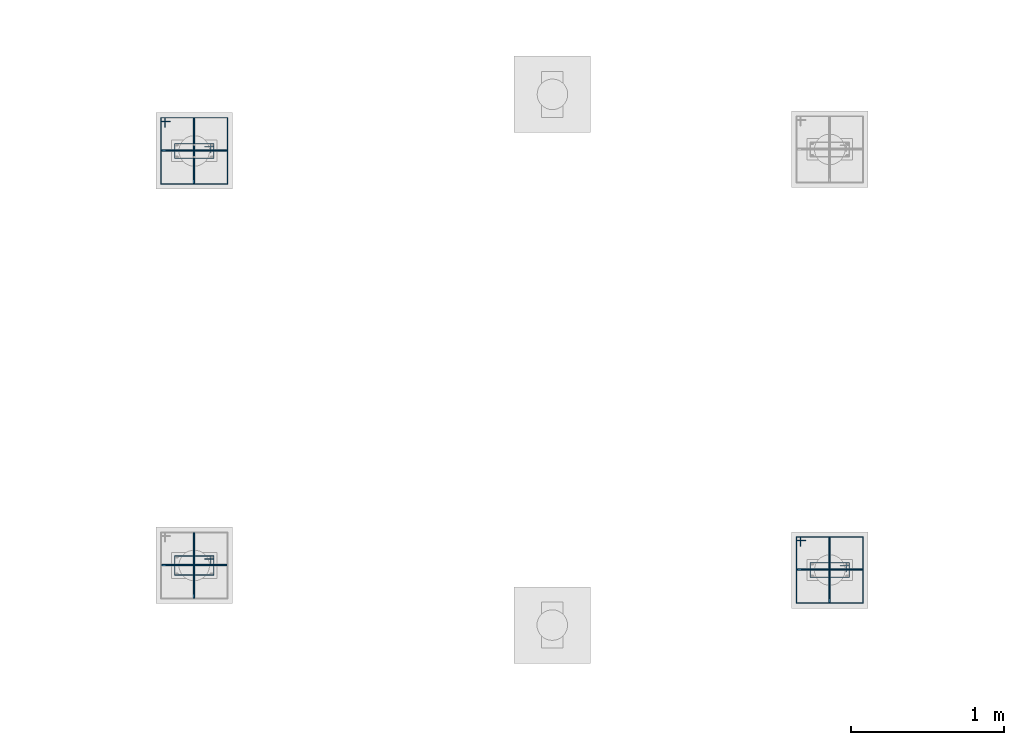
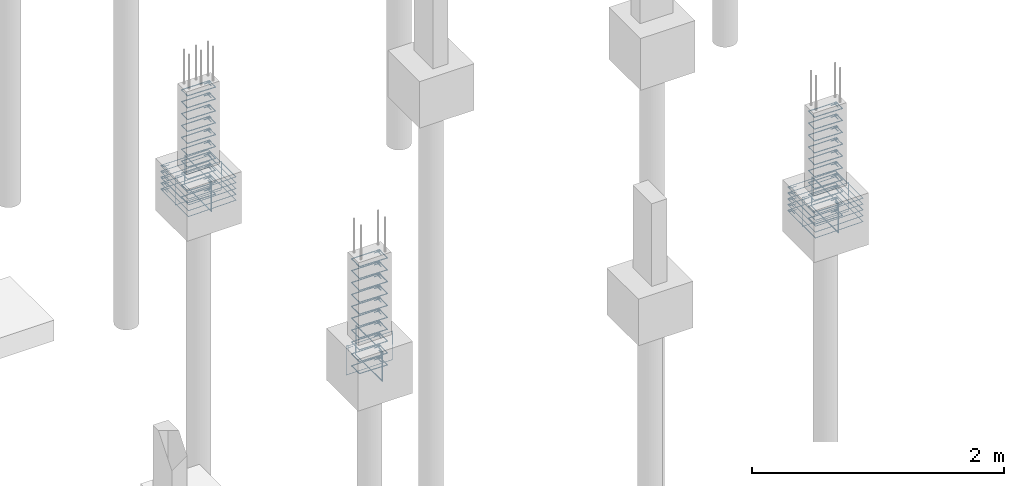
# One storey, part 71 of 119: 46 reinforcing bars.
"""IFC4 building model written with IfcOpenShell, lengths in centimetres."""

import ifcopenshell
import ifcopenshell.guid

model = None  # the IFC model being written
_history = None  # IfcOwnerHistory: only IFC2X3 demands one
_inside = {}  # id of a spatial element -> (the spatial element, [elements in it])
_under = {}  # id of a project, library or spatial element -> (it, [spatial elements below it])
_declared = {}  # id of a project -> (the project, [libraries it declares])
_typed = {}  # id of a type object -> (the type object, [elements of that type])
_made_of = {}  # id of a material, layer set ... -> (it, [elements and type objects made of it])


def new_model(schema):
    """Start an empty IFC model of exactly this schema.

    Asked for "IFC4X3", IfcOpenShell would pick the latest addendum, in which some entities
    have other attributes; the version numbers below select the first issue.
    IFC2X3 requires an IfcOwnerHistory on every rooted entity: one is made here for all.
    """
    global model, _history
    if schema == "IFC4X3":
        model = ifcopenshell.file(schema_version=(4, 3, 0, 0))
    else:
        model = ifcopenshell.file(schema=schema)
    _inside.clear()
    _under.clear()
    _declared.clear()
    _typed.clear()
    _made_of.clear()
    _history = None
    if model.schema == "IFC2X3":
        org = make("IfcOrganization", Name="unknown")
        user = make(
            "IfcPersonAndOrganization",
            ThePerson=make("IfcPerson", FamilyName="unknown"),
            TheOrganization=org,
        )
        app = make(
            "IfcApplication",
            ApplicationDeveloper=org,
            Version="unknown",
            ApplicationFullName="unknown",
            ApplicationIdentifier="unknown",
        )
        _history = make(
            "IfcOwnerHistory",
            OwningUser=user,
            OwningApplication=app,
            ChangeAction="ADDED",
            CreationDate=0,
        )
    return model


def make(cls, **values):
    """One entity of the class cls with the attributes given. An attribute that is None is left unset."""
    return model.create_entity(
        cls, **{name: value for name, value in values.items() if value is not None}
    )


def entity(cls, *values):
    """Any entity or typed value of the class cls, its attributes in the order of the schema. None: left unset."""
    e = model.create_entity(cls)
    for i, value in enumerate(values):
        if value is not None:
            e[i] = value
    return e


def rooted(cls, **values):
    """An entity with a GlobalId (a new one), such as an element, a storey or a relation."""
    return make(cls, GlobalId=ifcopenshell.guid.new(), OwnerHistory=_history, **values)


def si_unit(unit_type, name, prefix=None):
    """IfcSIUnit, for example si_unit("LENGTHUNIT", "METRE", prefix="MILLI")."""
    return make("IfcSIUnit", UnitType=unit_type, Prefix=prefix, Name=name)


def derived_unit(unit_type, elements):
    """IfcDerivedUnit: a product of units, each with its exponent."""
    return make(
        "IfcDerivedUnit",
        Elements=[
            make("IfcDerivedUnitElement", Unit=unit, Exponent=power)
            for unit, power in elements
        ],
        UnitType=unit_type,
    )


def assignment(units):
    """IfcUnitAssignment: the units of a project."""
    return None if units is None else make("IfcUnitAssignment", Units=units)


def point(xyz):
    """IfcCartesianPoint."""
    return None if xyz is None else make("IfcCartesianPoint", Coordinates=xyz)


def direction(xyz):
    """IfcDirection."""
    return None if xyz is None else make("IfcDirection", DirectionRatios=xyz)


def frame(location, z_axis=None, x_axis=None):
    """IfcAxis2Placement3D, a coordinate frame: its origin and axes. An axis left out is left unset."""
    return make(
        "IfcAxis2Placement3D",
        Location=point(location),
        Axis=direction(z_axis),
        RefDirection=direction(x_axis),
    )


def origin_with_axes():
    """The frame at (0, 0, 0) with the z axis (0, 0, 1) and the x axis (1, 0, 0) written out."""
    return frame((0.0, 0.0, 0.0), z_axis=(0.0, 0.0, 1.0), x_axis=(1.0, 0.0, 0.0))


def place(relative_to, where):
    """IfcLocalPlacement: puts the frame where relative to a parent placement (None: the world)."""
    return make(
        "IfcLocalPlacement", PlacementRelTo=relative_to, RelativePlacement=where
    )


def context(
    kind, dimensions, precision=None, world=None, true_north=None, identifier=None
):
    """IfcGeometricRepresentationContext, for example the 3D "Model" context."""
    return make(
        "IfcGeometricRepresentationContext",
        ContextIdentifier=identifier,
        ContextType=kind,
        CoordinateSpaceDimension=dimensions,
        Precision=precision,
        WorldCoordinateSystem=world,
        TrueNorth=true_north,
    )


def project(units=None, contexts=None):
    """IfcProject with its units and contexts."""
    return rooted(
        "IfcProject",
        Name="project",
        RepresentationContexts=contexts,
        UnitsInContext=assignment(units),
    )


def spatial(cls, under=None, at=None, **own):
    """A site, building, storey or space (cls), placed at a placement, below another one or the project."""
    s = rooted(cls, ObjectPlacement=at, **own)
    if under is not None:
        _under.setdefault(under.id(), (under, []))[1].append(s)
    return s


def shape(context_of_items, identifier, shape_type, items):
    """IfcShapeRepresentation: the items that make up one representation, for example the "Body"."""
    return make(
        "IfcShapeRepresentation",
        ContextOfItems=context_of_items,
        RepresentationIdentifier=identifier,
        RepresentationType=shape_type,
        Items=items,
    )


def source(mapping_origin, context_of_items, identifier, shape_type, items):
    """IfcRepresentationMap: a shape defined once, which mapped items show again and again."""
    return make(
        "IfcRepresentationMap",
        MappingOrigin=mapping_origin,
        MappedRepresentation=shape(context_of_items, identifier, shape_type, items),
    )


def transform(
    local_origin,
    x_axis=None,
    y_axis=None,
    z_axis=None,
    scale=None,
    scale2=None,
    scale3=None,
    uniform=True,
):
    """IfcCartesianTransformationOperator3D, or its non-uniform kind. x_axis, y_axis, z_axis: its Axis1, 2, 3."""
    if uniform:
        return make(
            "IfcCartesianTransformationOperator3D",
            Axis1=direction(x_axis),
            Axis2=direction(y_axis),
            LocalOrigin=point(local_origin),
            Scale=scale,
            Axis3=direction(z_axis),
        )
    return make(
        "IfcCartesianTransformationOperator3DnonUniform",
        Axis1=direction(x_axis),
        Axis2=direction(y_axis),
        LocalOrigin=point(local_origin),
        Scale=scale,
        Axis3=direction(z_axis),
        Scale2=scale2,
        Scale3=scale3,
    )


def mapped(mapping_source, mapping_target):
    """IfcMappedItem: shows the shape of a source again, moved by a transform."""
    return make(
        "IfcMappedItem", MappingSource=mapping_source, MappingTarget=mapping_target
    )


def made_of(thing, what):
    """Note that an element or type object is made of a material, layer set ...; save() writes the relation."""
    if what is not None:
        _made_of.setdefault(what.id(), (what, []))[1].append(thing)
    return thing


def element(
    cls,
    number,
    at=None,
    inside=None,
    cuts=None,
    type_object=None,
    material=None,
    context=None,
    identifier="Body",
    shape_type=None,
    held_by="IfcProductDefinitionShape",
    body=None,
    shapes=None,
    **own,
):
    """One element of the class cls, such as IfcWall. Its Tag is "e" and its number.

    at: its placement. inside: the storey or other place that contains it. cuts: it is an
    opening in that element (IfcRelVoidsElement). A single representation is given by context,
    identifier, shape_type and body (its items); several are given by shapes. held_by: the class
    of the entity that holds the representations. save() writes the other relations.
    """
    e = rooted(cls, Tag="e%d" % number, ObjectPlacement=at, **own)
    if body is not None:
        shapes = [shape(context, identifier, shape_type, body)]
    if shapes is not None:
        e.Representation = make(held_by, Representations=shapes)
    if inside is not None:
        _inside.setdefault(inside.id(), (inside, []))[1].append(e)
    if cuts is not None:
        rooted(
            "IfcRelVoidsElement", RelatingBuildingElement=cuts, RelatedOpeningElement=e
        )
    if type_object is not None:
        _typed.setdefault(type_object.id(), (type_object, []))[1].append(e)
    return made_of(e, material)


def aggregate(whole, parts):
    """IfcRelAggregates: a whole, such as a stair, and the parts it consists of."""
    return rooted("IfcRelAggregates", RelatingObject=whole, RelatedObjects=parts)


def save(model, path):
    """Write the relations noted so far, then the file.

    IfcRelAggregates (storeys below a building ...), IfcRelContainedInSpatialStructure (elements
    in a storey), IfcRelDefinesByType, IfcRelAssociatesMaterial and IfcRelDeclares: one each for
    every whole, place, type object, material and project.
    """
    for whole, parts in _under.values():
        aggregate(whole, parts)
    for where, things in _inside.values():
        rooted(
            "IfcRelContainedInSpatialStructure",
            RelatedElements=things,
            RelatingStructure=where,
        )
    for kind, things in _typed.values():
        rooted("IfcRelDefinesByType", RelatedObjects=things, RelatingType=kind)
    for what, things in _made_of.values():
        rooted("IfcRelAssociatesMaterial", RelatedObjects=things, RelatingMaterial=what)
    for by, libraries in _declared.values():
        rooted("IfcRelDeclares", RelatingContext=by, RelatedDefinitions=libraries)
    model.write(path)


model = new_model("IFC4")

# Units and contexts
model_context = context("Model", 3, precision=1e-05, world=origin_with_axes(), identifier="Body")
ifc_project = project(units=[si_unit("LENGTHUNIT", "METRE", prefix="CENTI"), si_unit("VOLUMEUNIT", "CUBIC_METRE"), si_unit("AREAUNIT", "SQUARE_METRE"), si_unit("POWERUNIT", "WATT"), si_unit("LUMINOUSFLUXUNIT", "LUMEN"), si_unit("ELECTRICCURRENTUNIT", "AMPERE"), si_unit("PRESSUREUNIT", "PASCAL", prefix="KILO"), si_unit("MASSUNIT", "GRAM", prefix="KILO"), si_unit("PLANEANGLEUNIT", "RADIAN"), derived_unit("VOLUMETRICFLOWRATEUNIT", [(si_unit("LENGTHUNIT", "METRE"), 3), (si_unit("TIMEUNIT", "SECOND"), -1)])], contexts=[model_context])

# Site, building, storey
site_placement = place(None, frame((-4000.0, 0.0, 0.0), z_axis=(0.0, 0.0, 1.0), x_axis=(1.0, 0.0, 0.0)))
site = spatial("IfcSite", under=ifc_project, at=site_placement, Name="PADRÃO")
building_placement = place(site_placement, frame((0.0, 0.0, -14.0)))
building = spatial("IfcBuilding", under=site, at=building_placement, Name="CRECHE PRÉ-ESCOLA TIPO 2")
storey_placement = place(building_placement, origin_with_axes())
storey = spatial("IfcBuildingStorey", under=building, at=storey_placement, Name="FUNDAÇÃO", CompositionType="ELEMENT", Elevation=-14.0)

# Reinforcing bars
shared_shape_1 = source(origin_with_axes(), model_context, "Body", "AdvancedSweptSolid", [
    entity("IfcSweptDiskSolid", entity("IfcCompositeCurve", [entity("IfcCompositeCurveSegment", "CONTINUOUS", True, entity("IfcPolyline", [entity("IfcCartesianPoint", [4.25, 21.75, 0.0]), entity("IfcCartesianPoint", [4.25, 27.75, 0.0])])), entity("IfcCompositeCurveSegment", "CONTINUOUS", True, entity("IfcPolyline", [entity("IfcCartesianPoint", [4.25, 27.75, 0.0]), entity("IfcCartesianPoint", [2.25, 27.75, 0.0])])), entity("IfcCompositeCurveSegment", "CONTINUOUS", True, entity("IfcPolyline", [entity("IfcCartesianPoint", [2.25, 27.75, 0.0]), entity("IfcCartesianPoint", [2.25, 2.25, 0.0])])), entity("IfcCompositeCurveSegment", "CONTINUOUS", True, entity("IfcPolyline", [entity("IfcCartesianPoint", [2.25, 2.25, 0.0]), entity("IfcCartesianPoint", [14.75, 2.25, 0.0])])), entity("IfcCompositeCurveSegment", "CONTINUOUS", True, entity("IfcPolyline", [entity("IfcCartesianPoint", [14.75, 2.25, 0.0]), entity("IfcCartesianPoint", [14.75, 27.75, -0.5])])), entity("IfcCompositeCurveSegment", "CONTINUOUS", True, entity("IfcPolyline", [entity("IfcCartesianPoint", [14.75, 27.75, -0.5]), entity("IfcCartesianPoint", [2.25, 27.75, -0.5])])), entity("IfcCompositeCurveSegment", "CONTINUOUS", True, entity("IfcPolyline", [entity("IfcCartesianPoint", [2.25, 27.75, -0.5]), entity("IfcCartesianPoint", [2.25, 25.75, -0.5])])), entity("IfcCompositeCurveSegment", "CONTINUOUS", True, entity("IfcPolyline", [entity("IfcCartesianPoint", [2.25, 25.75, -0.5]), entity("IfcCartesianPoint", [8.25, 25.75, -0.5])]))], False), 0.25),
])
for number, where, z_axis, x_axis, name in (
    (1, (254.5, 1039.0, -5.75), (0.0, 0.0, 1.0), (0.0, -1.0, 0.0), "P116 - Estribo"),
    (2, (254.5, 1039.0, -28.75), (0.0, 0.0, 1.0), (0.0, -1.0, 0.0), "P116 - Estribo"),
    (3, (254.5, 1039.0, -40.25), (0.0, 0.0, 1.0), (0.0, -1.0, 0.0), "P116 - Estribo"),
    (4, (254.5, 1039.0, -51.75), (0.0, 0.0, 1.0), (0.0, -1.0, 0.0), "P116 - Estribo"),
    (5, (254.5, 1039.0, -74.75), (0.0, 0.0, 1.0), (0.0, -1.0, 0.0), "P116 - Estribo"),
    (6, (254.5, 1039.0, -17.25), (0.0, 0.0, 1.0), (0.0, -1.0, 0.0), "P116 - Estribo"),
    (7, (254.5, 1039.0, -97.75), (0.0, 0.0, 1.0), (0.0, -1.0, 0.0), "P116 - Estribo"),
    (8, (254.5, 1039.0, -86.25), (0.0, 0.0, 1.0), (0.0, -1.0, 0.0), "P116 - Estribo"),
    (9, (254.5, 1039.0, -63.25), (0.0, 0.0, 1.0), (0.0, -1.0, 0.0), "P116 - Estribo"),
    (10, (254.5, 1039.0, -109.25), (0.0, 0.0, 1.0), (0.0, -1.0, 0.0), "P116 - Estribo"),
):
    element("IfcReinforcingBar", number, at=place(storey_placement, frame(where, z_axis=z_axis, x_axis=x_axis)), inside=storey, Name=name, BarLength=0.0, CrossSectionArea=1.9634954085e-05, NominalDiameter=0.5, PredefinedType="MAIN", context=model_context, shape_type="MappedRepresentation", body=[
        mapped(shared_shape_1, transform((0.0, 0.0, 0.0), scale=1.0)),
    ])
shared_shape_2 = source(origin_with_axes(), model_context, "Body", "AdvancedSweptSolid", [
    entity("IfcSweptDiskSolid", entity("IfcCompositeCurve", [entity("IfcCompositeCurveSegment", "CONTINUOUS", True, entity("IfcPolyline", [entity("IfcCartesianPoint", [-15.12, -12.0, 0.0]), entity("IfcCartesianPoint", [-21.12, -12.0, 0.0])])), entity("IfcCompositeCurveSegment", "CONTINUOUS", True, entity("IfcPolyline", [entity("IfcCartesianPoint", [-21.12, -12.0, 0.0]), entity("IfcCartesianPoint", [-21.12, -14.0, 0.0])])), entity("IfcCompositeCurveSegment", "CONTINUOUS", True, entity("IfcPolyline", [entity("IfcCartesianPoint", [-21.12, -14.0, 0.0]), entity("IfcCartesianPoint", [21.12, -14.0, 0.0])])), entity("IfcCompositeCurveSegment", "CONTINUOUS", True, entity("IfcPolyline", [entity("IfcCartesianPoint", [21.12, -14.0, 0.0]), entity("IfcCartesianPoint", [21.12, 14.0, 0.5])])), entity("IfcCompositeCurveSegment", "CONTINUOUS", True, entity("IfcPolyline", [entity("IfcCartesianPoint", [21.12, 14.0, 0.5]), entity("IfcCartesianPoint", [-21.12, 14.0, 0.5])])), entity("IfcCompositeCurveSegment", "CONTINUOUS", True, entity("IfcPolyline", [entity("IfcCartesianPoint", [-21.12, 14.0, 0.5]), entity("IfcCartesianPoint", [-21.12, -14.0, 0.5])])), entity("IfcCompositeCurveSegment", "CONTINUOUS", True, entity("IfcPolyline", [entity("IfcCartesianPoint", [-21.12, -14.0, 0.5]), entity("IfcCartesianPoint", [-19.12, -14.0, 0.5])])), entity("IfcCompositeCurveSegment", "CONTINUOUS", True, entity("IfcPolyline", [entity("IfcCartesianPoint", [-19.12, -14.0, 0.5]), entity("IfcCartesianPoint", [-19.12, -8.0, 0.5])]))], False), 0.25),
])
reinforcing_bar_1_placement = place(storey_placement, frame((269.5, 1030.5, -97.75), z_axis=(0.0, 1.0, 0.0), x_axis=(1.0, 0.0, 0.0)))
element("IfcReinforcingBar", 11, at=reinforcing_bar_1_placement, inside=storey, Name="P116 - Blocos (estribos)", BarLength=0.0, CrossSectionArea=1.9634954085e-05, NominalDiameter=0.5, PredefinedType="MAIN", context=model_context, shape_type="MappedRepresentation", body=[
    mapped(shared_shape_2, transform((0.0, 0.0, 0.0), scale=1.0)),
])
shared_shape_3 = source(origin_with_axes(), model_context, "Body", "AdvancedSweptSolid", [
    entity("IfcSweptDiskSolid", entity("IfcCompositeCurve", [entity("IfcCompositeCurveSegment", "CONTINUOUS", True, entity("IfcPolyline", [entity("IfcCartesianPoint", [-15.12, -12.0, 0.0]), entity("IfcCartesianPoint", [-21.12, -12.0, 0.0])])), entity("IfcCompositeCurveSegment", "CONTINUOUS", True, entity("IfcPolyline", [entity("IfcCartesianPoint", [-21.12, -12.0, 0.0]), entity("IfcCartesianPoint", [-21.12, -14.0, 0.0])])), entity("IfcCompositeCurveSegment", "CONTINUOUS", True, entity("IfcPolyline", [entity("IfcCartesianPoint", [-21.12, -14.0, 0.0]), entity("IfcCartesianPoint", [21.12, -14.0, 0.0])])), entity("IfcCompositeCurveSegment", "CONTINUOUS", True, entity("IfcPolyline", [entity("IfcCartesianPoint", [21.12, -14.0, 0.0]), entity("IfcCartesianPoint", [21.12, 14.0, 0.5])])), entity("IfcCompositeCurveSegment", "CONTINUOUS", True, entity("IfcPolyline", [entity("IfcCartesianPoint", [21.12, 14.0, 0.5]), entity("IfcCartesianPoint", [-21.12, 14.0, 0.5])])), entity("IfcCompositeCurveSegment", "CONTINUOUS", True, entity("IfcPolyline", [entity("IfcCartesianPoint", [-21.12, 14.0, 0.5]), entity("IfcCartesianPoint", [-21.12, -14.0, 0.5])])), entity("IfcCompositeCurveSegment", "CONTINUOUS", True, entity("IfcPolyline", [entity("IfcCartesianPoint", [-21.12, -14.0, 0.5]), entity("IfcCartesianPoint", [-19.12, -14.0, 0.5])])), entity("IfcCompositeCurveSegment", "CONTINUOUS", True, entity("IfcPolyline", [entity("IfcCartesianPoint", [-19.12, -14.0, 0.5]), entity("IfcCartesianPoint", [-19.12, -8.0, 0.5])]))], False), 0.25),
])
reinforcing_bar_2_placement = place(storey_placement, frame((269.5, 1030.5, -97.75), z_axis=(-1.0, 0.0, 0.0), x_axis=(0.0, 1.0, 0.0)))
element("IfcReinforcingBar", 12, at=reinforcing_bar_2_placement, inside=storey, Name="P116 - Blocos (estribos)", BarLength=0.0, CrossSectionArea=1.9634954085e-05, NominalDiameter=0.5, PredefinedType="MAIN", context=model_context, shape_type="MappedRepresentation", body=[
    mapped(shared_shape_3, transform((0.0, 0.0, 0.0), scale=1.0)),
])
shared_shape_4 = source(origin_with_axes(), model_context, "Body", "AdvancedSweptSolid", [
    entity("IfcSweptDiskSolid", entity("IfcCompositeCurve", [entity("IfcCompositeCurveSegment", "CONTINUOUS", True, entity("IfcPolyline", [entity("IfcCartesianPoint", [4.25, 21.75, 0.0]), entity("IfcCartesianPoint", [4.25, 27.75, 0.0])])), entity("IfcCompositeCurveSegment", "CONTINUOUS", True, entity("IfcPolyline", [entity("IfcCartesianPoint", [4.25, 27.75, 0.0]), entity("IfcCartesianPoint", [2.25, 27.75, 0.0])])), entity("IfcCompositeCurveSegment", "CONTINUOUS", True, entity("IfcPolyline", [entity("IfcCartesianPoint", [2.25, 27.75, 0.0]), entity("IfcCartesianPoint", [2.25, 2.25, 0.0])])), entity("IfcCompositeCurveSegment", "CONTINUOUS", True, entity("IfcPolyline", [entity("IfcCartesianPoint", [2.25, 2.25, 0.0]), entity("IfcCartesianPoint", [11.75, 2.25, 0.0])])), entity("IfcCompositeCurveSegment", "CONTINUOUS", True, entity("IfcPolyline", [entity("IfcCartesianPoint", [11.75, 2.25, 0.0]), entity("IfcCartesianPoint", [11.75, 27.75, -0.5])])), entity("IfcCompositeCurveSegment", "CONTINUOUS", True, entity("IfcPolyline", [entity("IfcCartesianPoint", [11.75, 27.75, -0.5]), entity("IfcCartesianPoint", [2.25, 27.75, -0.5])])), entity("IfcCompositeCurveSegment", "CONTINUOUS", True, entity("IfcPolyline", [entity("IfcCartesianPoint", [2.25, 27.75, -0.5]), entity("IfcCartesianPoint", [2.25, 25.75, -0.5])])), entity("IfcCompositeCurveSegment", "CONTINUOUS", True, entity("IfcPolyline", [entity("IfcCartesianPoint", [2.25, 25.75, -0.5]), entity("IfcCartesianPoint", [8.25, 25.75, -0.5])]))], False), 0.25),
])
for number, where, z_axis, x_axis, name in (
    (13, (254.5, 1308.5, -17.25), (0.0, 0.0, 1.0), (0.0, -1.0, 0.0), "P106 - Estribo"),
    (14, (254.5, 1308.5, -63.25), (0.0, 0.0, 1.0), (0.0, -1.0, 0.0), "P106 - Estribo"),
    (15, (254.5, 1308.5, -74.75), (0.0, 0.0, 1.0), (0.0, -1.0, 0.0), "P106 - Estribo"),
    (16, (254.5, 1308.5, -109.25), (0.0, 0.0, 1.0), (0.0, -1.0, 0.0), "P106 - Estribo"),
    (17, (254.5, 1308.5, -5.75), (0.0, 0.0, 1.0), (0.0, -1.0, 0.0), "P106 - Estribo"),
    (18, (254.5, 1308.5, -97.75), (0.0, 0.0, 1.0), (0.0, -1.0, 0.0), "P106 - Estribo"),
    (19, (254.5, 1308.5, -86.25), (0.0, 0.0, 1.0), (0.0, -1.0, 0.0), "P106 - Estribo"),
    (20, (254.5, 1308.5, -51.75), (0.0, 0.0, 1.0), (0.0, -1.0, 0.0), "P106 - Estribo"),
    (21, (254.5, 1308.5, -40.25), (0.0, 0.0, 1.0), (0.0, -1.0, 0.0), "P106 - Estribo"),
    (22, (254.5, 1308.5, -28.75), (0.0, 0.0, 1.0), (0.0, -1.0, 0.0), "P106 - Estribo"),
):
    element("IfcReinforcingBar", number, at=place(storey_placement, frame(where, z_axis=z_axis, x_axis=x_axis)), inside=storey, Name=name, BarLength=0.0, CrossSectionArea=1.9634954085e-05, NominalDiameter=0.5, PredefinedType="MAIN", context=model_context, shape_type="MappedRepresentation", body=[
        mapped(shared_shape_4, transform((0.0, 0.0, 0.0), scale=1.0)),
    ])
shared_shape_5 = source(origin_with_axes(), model_context, "Body", "AdvancedSweptSolid", [
    entity("IfcSweptDiskSolid", entity("IfcCompositeCurve", [entity("IfcCompositeCurveSegment", "CONTINUOUS", True, entity("IfcPolyline", [entity("IfcCartesianPoint", [250.335, 1316.925, 0.0]), entity("IfcCartesianPoint", [250.335, 1323.185, 0.0])])), entity("IfcCompositeCurveSegment", "CONTINUOUS", True, entity("IfcPolyline", [entity("IfcCartesianPoint", [250.335, 1323.185, 0.0]), entity("IfcCartesianPoint", [247.815, 1323.185, 0.0])])), entity("IfcCompositeCurveSegment", "CONTINUOUS", True, entity("IfcPolyline", [entity("IfcCartesianPoint", [247.815, 1323.185, 0.0]), entity("IfcCartesianPoint", [247.815, 1279.815, 0.0])])), entity("IfcCompositeCurveSegment", "CONTINUOUS", True, entity("IfcPolyline", [entity("IfcCartesianPoint", [247.815, 1279.815, 0.0]), entity("IfcCartesianPoint", [291.185, 1279.815, 0.63])])), entity("IfcCompositeCurveSegment", "CONTINUOUS", True, entity("IfcPolyline", [entity("IfcCartesianPoint", [291.185, 1279.815, 0.63]), entity("IfcCartesianPoint", [291.185, 1323.185, 0.63])])), entity("IfcCompositeCurveSegment", "CONTINUOUS", True, entity("IfcPolyline", [entity("IfcCartesianPoint", [291.185, 1323.185, 0.63]), entity("IfcCartesianPoint", [247.815, 1323.185, 0.63])])), entity("IfcCompositeCurveSegment", "CONTINUOUS", True, entity("IfcPolyline", [entity("IfcCartesianPoint", [247.815, 1323.185, 0.63]), entity("IfcCartesianPoint", [247.815, 1320.665, 0.63])])), entity("IfcCompositeCurveSegment", "CONTINUOUS", True, entity("IfcPolyline", [entity("IfcCartesianPoint", [247.815, 1320.665, 0.63]), entity("IfcCartesianPoint", [254.075, 1320.665, 0.63])]))], False), 0.315),
])
for number, where, z_axis, x_axis, name in (
    (23, (0.0, 0.0, -92.225), (0.0, 0.0, 1.0), (1.0, 0.0, 0.0), "P106 - Blocos (estribos)"),
    (24, (0.0, 0.0, -86.575), (0.0, 0.0, 1.0), (1.0, 0.0, 0.0), "P106 - Blocos (estribos)"),
    (25, (0.0, 0.0, -109.175), (0.0, 0.0, 1.0), (1.0, 0.0, 0.0), "P106 - Blocos (estribos)"),
    (26, (0.0, 0.0, -103.525), (0.0, 0.0, 1.0), (1.0, 0.0, 0.0), "P106 - Blocos (estribos)"),
    (27, (0.0, 0.0, -97.875), (0.0, 0.0, 1.0), (1.0, 0.0, 0.0), "P106 - Blocos (estribos)"),
):
    element("IfcReinforcingBar", number, at=place(storey_placement, frame(where, z_axis=z_axis, x_axis=x_axis)), inside=storey, Name=name, BarLength=0.0, CrossSectionArea=3.1172453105e-05, NominalDiameter=0.63, PredefinedType="MAIN", context=model_context, shape_type="MappedRepresentation", body=[
        mapped(shared_shape_5, transform((0.0, 0.0, 0.0), scale=1.0)),
    ])
shared_shape_6 = source(origin_with_axes(), model_context, "Body", "AdvancedSweptSolid", [
    entity("IfcSweptDiskSolid", entity("IfcCompositeCurve", [entity("IfcCompositeCurveSegment", "CONTINUOUS", True, entity("IfcPolyline", [entity("IfcCartesianPoint", [-15.12, -12.0, 0.0]), entity("IfcCartesianPoint", [-21.12, -12.0, 0.0])])), entity("IfcCompositeCurveSegment", "CONTINUOUS", True, entity("IfcPolyline", [entity("IfcCartesianPoint", [-21.12, -12.0, 0.0]), entity("IfcCartesianPoint", [-21.12, -14.0, 0.0])])), entity("IfcCompositeCurveSegment", "CONTINUOUS", True, entity("IfcPolyline", [entity("IfcCartesianPoint", [-21.12, -14.0, 0.0]), entity("IfcCartesianPoint", [21.12, -14.0, 0.0])])), entity("IfcCompositeCurveSegment", "CONTINUOUS", True, entity("IfcPolyline", [entity("IfcCartesianPoint", [21.12, -14.0, 0.0]), entity("IfcCartesianPoint", [21.12, 14.0, 0.5])])), entity("IfcCompositeCurveSegment", "CONTINUOUS", True, entity("IfcPolyline", [entity("IfcCartesianPoint", [21.12, 14.0, 0.5]), entity("IfcCartesianPoint", [-21.12, 14.0, 0.5])])), entity("IfcCompositeCurveSegment", "CONTINUOUS", True, entity("IfcPolyline", [entity("IfcCartesianPoint", [-21.12, 14.0, 0.5]), entity("IfcCartesianPoint", [-21.12, -14.0, 0.5])])), entity("IfcCompositeCurveSegment", "CONTINUOUS", True, entity("IfcPolyline", [entity("IfcCartesianPoint", [-21.12, -14.0, 0.5]), entity("IfcCartesianPoint", [-19.12, -14.0, 0.5])])), entity("IfcCompositeCurveSegment", "CONTINUOUS", True, entity("IfcPolyline", [entity("IfcCartesianPoint", [-19.12, -14.0, 0.5]), entity("IfcCartesianPoint", [-19.12, -8.0, 0.5])]))], False), 0.25),
])
reinforcing_bar_3_placement = place(storey_placement, frame((269.5, 1301.5, -97.75), z_axis=(0.0, 1.0, 0.0), x_axis=(1.0, 0.0, 0.0)))
element("IfcReinforcingBar", 28, at=reinforcing_bar_3_placement, inside=storey, Name="P106 - Blocos (estribos)", BarLength=0.0, CrossSectionArea=1.9634954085e-05, NominalDiameter=0.5, PredefinedType="MAIN", context=model_context, shape_type="MappedRepresentation", body=[
    mapped(shared_shape_6, transform((0.0, 0.0, 0.0), scale=1.0)),
])
shared_shape_7 = source(origin_with_axes(), model_context, "Body", "AdvancedSweptSolid", [
    entity("IfcSweptDiskSolid", entity("IfcCompositeCurve", [entity("IfcCompositeCurveSegment", "CONTINUOUS", True, entity("IfcPolyline", [entity("IfcCartesianPoint", [-15.12, -12.0, 0.0]), entity("IfcCartesianPoint", [-21.12, -12.0, 0.0])])), entity("IfcCompositeCurveSegment", "CONTINUOUS", True, entity("IfcPolyline", [entity("IfcCartesianPoint", [-21.12, -12.0, 0.0]), entity("IfcCartesianPoint", [-21.12, -14.0, 0.0])])), entity("IfcCompositeCurveSegment", "CONTINUOUS", True, entity("IfcPolyline", [entity("IfcCartesianPoint", [-21.12, -14.0, 0.0]), entity("IfcCartesianPoint", [21.12, -14.0, 0.0])])), entity("IfcCompositeCurveSegment", "CONTINUOUS", True, entity("IfcPolyline", [entity("IfcCartesianPoint", [21.12, -14.0, 0.0]), entity("IfcCartesianPoint", [21.12, 14.0, 0.5])])), entity("IfcCompositeCurveSegment", "CONTINUOUS", True, entity("IfcPolyline", [entity("IfcCartesianPoint", [21.12, 14.0, 0.5]), entity("IfcCartesianPoint", [-21.12, 14.0, 0.5])])), entity("IfcCompositeCurveSegment", "CONTINUOUS", True, entity("IfcPolyline", [entity("IfcCartesianPoint", [-21.12, 14.0, 0.5]), entity("IfcCartesianPoint", [-21.12, -14.0, 0.5])])), entity("IfcCompositeCurveSegment", "CONTINUOUS", True, entity("IfcPolyline", [entity("IfcCartesianPoint", [-21.12, -14.0, 0.5]), entity("IfcCartesianPoint", [-19.12, -14.0, 0.5])])), entity("IfcCompositeCurveSegment", "CONTINUOUS", True, entity("IfcPolyline", [entity("IfcCartesianPoint", [-19.12, -14.0, 0.5]), entity("IfcCartesianPoint", [-19.12, -8.0, 0.5])]))], False), 0.25),
])
reinforcing_bar_4_placement = place(storey_placement, frame((269.5, 1301.5, -97.75), z_axis=(-1.0, 0.0, 0.0), x_axis=(0.0, 1.0, 0.0)))
element("IfcReinforcingBar", 29, at=reinforcing_bar_4_placement, inside=storey, Name="P106 - Blocos (estribos)", BarLength=0.0, CrossSectionArea=1.9634954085e-05, NominalDiameter=0.5, PredefinedType="MAIN", context=model_context, shape_type="MappedRepresentation", body=[
    mapped(shared_shape_7, transform((0.0, 0.0, 0.0), scale=1.0)),
])
shared_shape_8 = source(origin_with_axes(), model_context, "Body", "AdvancedSweptSolid", [
    entity("IfcSweptDiskSolid", entity("IfcCompositeCurve", [entity("IfcCompositeCurveSegment", "CONTINUOUS", True, entity("IfcPolyline", [entity("IfcCartesianPoint", [4.25, 21.75, 0.0]), entity("IfcCartesianPoint", [4.25, 27.75, 0.0])])), entity("IfcCompositeCurveSegment", "CONTINUOUS", True, entity("IfcPolyline", [entity("IfcCartesianPoint", [4.25, 27.75, 0.0]), entity("IfcCartesianPoint", [2.25, 27.75, 0.0])])), entity("IfcCompositeCurveSegment", "CONTINUOUS", True, entity("IfcPolyline", [entity("IfcCartesianPoint", [2.25, 27.75, 0.0]), entity("IfcCartesianPoint", [2.25, 2.25, 0.0])])), entity("IfcCompositeCurveSegment", "CONTINUOUS", True, entity("IfcPolyline", [entity("IfcCartesianPoint", [2.25, 2.25, 0.0]), entity("IfcCartesianPoint", [11.75, 2.25, 0.0])])), entity("IfcCompositeCurveSegment", "CONTINUOUS", True, entity("IfcPolyline", [entity("IfcCartesianPoint", [11.75, 2.25, 0.0]), entity("IfcCartesianPoint", [11.75, 27.75, -0.5])])), entity("IfcCompositeCurveSegment", "CONTINUOUS", True, entity("IfcPolyline", [entity("IfcCartesianPoint", [11.75, 27.75, -0.5]), entity("IfcCartesianPoint", [2.25, 27.75, -0.5])])), entity("IfcCompositeCurveSegment", "CONTINUOUS", True, entity("IfcPolyline", [entity("IfcCartesianPoint", [2.25, 27.75, -0.5]), entity("IfcCartesianPoint", [2.25, 25.75, -0.5])])), entity("IfcCompositeCurveSegment", "CONTINUOUS", True, entity("IfcPolyline", [entity("IfcCartesianPoint", [2.25, 25.75, -0.5]), entity("IfcCartesianPoint", [8.25, 25.75, -0.5])]))], False), 0.25),
])
for number, where, z_axis, x_axis, name in (
    (30, (670.0, 1034.51, -63.25), (0.0, 0.0, 1.0), (0.0, -1.0, 0.0), "P118 - Estribo"),
    (31, (670.0, 1034.51, -51.75), (0.0, 0.0, 1.0), (0.0, -1.0, 0.0), "P118 - Estribo"),
    (32, (670.0, 1034.51, -5.75), (0.0, 0.0, 1.0), (0.0, -1.0, 0.0), "P118 - Estribo"),
    (33, (670.0, 1034.51, -40.25), (0.0, 0.0, 1.0), (0.0, -1.0, 0.0), "P118 - Estribo"),
    (34, (670.0, 1034.51, -17.25), (0.0, 0.0, 1.0), (0.0, -1.0, 0.0), "P118 - Estribo"),
    (35, (670.0, 1034.51, -74.75), (0.0, 0.0, 1.0), (0.0, -1.0, 0.0), "P118 - Estribo"),
    (36, (670.0, 1034.51, -86.25), (0.0, 0.0, 1.0), (0.0, -1.0, 0.0), "P118 - Estribo"),
    (37, (670.0, 1034.51, -97.75), (0.0, 0.0, 1.0), (0.0, -1.0, 0.0), "P118 - Estribo"),
    (38, (670.0, 1034.51, -109.25), (0.0, 0.0, 1.0), (0.0, -1.0, 0.0), "P118 - Estribo"),
    (39, (670.0, 1034.51, -28.75), (0.0, 0.0, 1.0), (0.0, -1.0, 0.0), "P118 - Estribo"),
):
    element("IfcReinforcingBar", number, at=place(storey_placement, frame(where, z_axis=z_axis, x_axis=x_axis)), inside=storey, Name=name, BarLength=0.0, CrossSectionArea=1.9634954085e-05, NominalDiameter=0.5, PredefinedType="MAIN", context=model_context, shape_type="MappedRepresentation", body=[
        mapped(shared_shape_8, transform((0.0, 0.0, 0.0), scale=1.0)),
    ])
shared_shape_9 = source(origin_with_axes(), model_context, "Body", "AdvancedSweptSolid", [
    entity("IfcSweptDiskSolid", entity("IfcCompositeCurve", [entity("IfcCompositeCurveSegment", "CONTINUOUS", True, entity("IfcPolyline", [entity("IfcCartesianPoint", [665.835, 1042.935, 0.0]), entity("IfcCartesianPoint", [665.835, 1049.195, 0.0])])), entity("IfcCompositeCurveSegment", "CONTINUOUS", True, entity("IfcPolyline", [entity("IfcCartesianPoint", [665.835, 1049.195, 0.0]), entity("IfcCartesianPoint", [663.315, 1049.195, 0.0])])), entity("IfcCompositeCurveSegment", "CONTINUOUS", True, entity("IfcPolyline", [entity("IfcCartesianPoint", [663.315, 1049.195, 0.0]), entity("IfcCartesianPoint", [663.315, 1005.825, 0.0])])), entity("IfcCompositeCurveSegment", "CONTINUOUS", True, entity("IfcPolyline", [entity("IfcCartesianPoint", [663.315, 1005.825, 0.0]), entity("IfcCartesianPoint", [706.685, 1005.825, 0.63])])), entity("IfcCompositeCurveSegment", "CONTINUOUS", True, entity("IfcPolyline", [entity("IfcCartesianPoint", [706.685, 1005.825, 0.63]), entity("IfcCartesianPoint", [706.685, 1049.195, 0.63])])), entity("IfcCompositeCurveSegment", "CONTINUOUS", True, entity("IfcPolyline", [entity("IfcCartesianPoint", [706.685, 1049.195, 0.63]), entity("IfcCartesianPoint", [663.315, 1049.195, 0.63])])), entity("IfcCompositeCurveSegment", "CONTINUOUS", True, entity("IfcPolyline", [entity("IfcCartesianPoint", [663.315, 1049.195, 0.63]), entity("IfcCartesianPoint", [663.315, 1046.675, 0.63])])), entity("IfcCompositeCurveSegment", "CONTINUOUS", True, entity("IfcPolyline", [entity("IfcCartesianPoint", [663.315, 1046.675, 0.63]), entity("IfcCartesianPoint", [669.575, 1046.675, 0.63])]))], False), 0.315),
])
for number, where, z_axis, x_axis, name in (
    (40, (0.0, 0.0, -86.575), (0.0, 0.0, 1.0), (1.0, 0.0, 0.0), "P118 - Blocos (estribos)"),
    (41, (0.0, 0.0, -92.225), (0.0, 0.0, 1.0), (1.0, 0.0, 0.0), "P118 - Blocos (estribos)"),
    (42, (0.0, 0.0, -97.875), (0.0, 0.0, 1.0), (1.0, 0.0, 0.0), "P118 - Blocos (estribos)"),
    (43, (0.0, 0.0, -103.525), (0.0, 0.0, 1.0), (1.0, 0.0, 0.0), "P118 - Blocos (estribos)"),
    (44, (0.0, 0.0, -109.175), (0.0, 0.0, 1.0), (1.0, 0.0, 0.0), "P118 - Blocos (estribos)"),
):
    element("IfcReinforcingBar", number, at=place(storey_placement, frame(where, z_axis=z_axis, x_axis=x_axis)), inside=storey, Name=name, BarLength=0.0, CrossSectionArea=3.1172453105e-05, NominalDiameter=0.63, PredefinedType="MAIN", context=model_context, shape_type="MappedRepresentation", body=[
        mapped(shared_shape_9, transform((0.0, 0.0, 0.0), scale=1.0)),
    ])
shared_shape_10 = source(origin_with_axes(), model_context, "Body", "AdvancedSweptSolid", [
    entity("IfcSweptDiskSolid", entity("IfcCompositeCurve", [entity("IfcCompositeCurveSegment", "CONTINUOUS", True, entity("IfcPolyline", [entity("IfcCartesianPoint", [-15.12, -12.0, 0.0]), entity("IfcCartesianPoint", [-21.12, -12.0, 0.0])])), entity("IfcCompositeCurveSegment", "CONTINUOUS", True, entity("IfcPolyline", [entity("IfcCartesianPoint", [-21.12, -12.0, 0.0]), entity("IfcCartesianPoint", [-21.12, -14.0, 0.0])])), entity("IfcCompositeCurveSegment", "CONTINUOUS", True, entity("IfcPolyline", [entity("IfcCartesianPoint", [-21.12, -14.0, 0.0]), entity("IfcCartesianPoint", [21.12, -14.0, 0.0])])), entity("IfcCompositeCurveSegment", "CONTINUOUS", True, entity("IfcPolyline", [entity("IfcCartesianPoint", [21.12, -14.0, 0.0]), entity("IfcCartesianPoint", [21.12, 14.0, 0.5])])), entity("IfcCompositeCurveSegment", "CONTINUOUS", True, entity("IfcPolyline", [entity("IfcCartesianPoint", [21.12, 14.0, 0.5]), entity("IfcCartesianPoint", [-21.12, 14.0, 0.5])])), entity("IfcCompositeCurveSegment", "CONTINUOUS", True, entity("IfcPolyline", [entity("IfcCartesianPoint", [-21.12, 14.0, 0.5]), entity("IfcCartesianPoint", [-21.12, -14.0, 0.5])])), entity("IfcCompositeCurveSegment", "CONTINUOUS", True, entity("IfcPolyline", [entity("IfcCartesianPoint", [-21.12, -14.0, 0.5]), entity("IfcCartesianPoint", [-19.12, -14.0, 0.5])])), entity("IfcCompositeCurveSegment", "CONTINUOUS", True, entity("IfcPolyline", [entity("IfcCartesianPoint", [-19.12, -14.0, 0.5]), entity("IfcCartesianPoint", [-19.12, -8.0, 0.5])]))], False), 0.25),
])
reinforcing_bar_5_placement = place(storey_placement, frame((685.0, 1027.51, -97.75), z_axis=(0.0, 1.0, 0.0), x_axis=(1.0, 0.0, 0.0)))
element("IfcReinforcingBar", 45, at=reinforcing_bar_5_placement, inside=storey, Name="P118 - Blocos (estribos)", BarLength=0.0, CrossSectionArea=1.9634954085e-05, NominalDiameter=0.5, PredefinedType="MAIN", context=model_context, shape_type="MappedRepresentation", body=[
    mapped(shared_shape_10, transform((0.0, 0.0, 0.0), scale=1.0)),
])
shared_shape_11 = source(origin_with_axes(), model_context, "Body", "AdvancedSweptSolid", [
    entity("IfcSweptDiskSolid", entity("IfcCompositeCurve", [entity("IfcCompositeCurveSegment", "CONTINUOUS", True, entity("IfcPolyline", [entity("IfcCartesianPoint", [-15.12, -12.0, 0.0]), entity("IfcCartesianPoint", [-21.12, -12.0, 0.0])])), entity("IfcCompositeCurveSegment", "CONTINUOUS", True, entity("IfcPolyline", [entity("IfcCartesianPoint", [-21.12, -12.0, 0.0]), entity("IfcCartesianPoint", [-21.12, -14.0, 0.0])])), entity("IfcCompositeCurveSegment", "CONTINUOUS", True, entity("IfcPolyline", [entity("IfcCartesianPoint", [-21.12, -14.0, 0.0]), entity("IfcCartesianPoint", [21.12, -14.0, 0.0])])), entity("IfcCompositeCurveSegment", "CONTINUOUS", True, entity("IfcPolyline", [entity("IfcCartesianPoint", [21.12, -14.0, 0.0]), entity("IfcCartesianPoint", [21.12, 14.0, 0.5])])), entity("IfcCompositeCurveSegment", "CONTINUOUS", True, entity("IfcPolyline", [entity("IfcCartesianPoint", [21.12, 14.0, 0.5]), entity("IfcCartesianPoint", [-21.12, 14.0, 0.5])])), entity("IfcCompositeCurveSegment", "CONTINUOUS", True, entity("IfcPolyline", [entity("IfcCartesianPoint", [-21.12, 14.0, 0.5]), entity("IfcCartesianPoint", [-21.12, -14.0, 0.5])])), entity("IfcCompositeCurveSegment", "CONTINUOUS", True, entity("IfcPolyline", [entity("IfcCartesianPoint", [-21.12, -14.0, 0.5]), entity("IfcCartesianPoint", [-19.12, -14.0, 0.5])])), entity("IfcCompositeCurveSegment", "CONTINUOUS", True, entity("IfcPolyline", [entity("IfcCartesianPoint", [-19.12, -14.0, 0.5]), entity("IfcCartesianPoint", [-19.12, -8.0, 0.5])]))], False), 0.25),
])
reinforcing_bar_6_placement = place(storey_placement, frame((685.0, 1027.51, -97.75), z_axis=(-1.0, 0.0, 0.0), x_axis=(0.0, 1.0, 0.0)))
element("IfcReinforcingBar", 46, at=reinforcing_bar_6_placement, inside=storey, Name="P118 - Blocos (estribos)", BarLength=0.0, CrossSectionArea=1.9634954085e-05, NominalDiameter=0.5, PredefinedType="MAIN", context=model_context, shape_type="MappedRepresentation", body=[
    mapped(shared_shape_11, transform((0.0, 0.0, 0.0), scale=1.0)),
])

save(model, "model.ifc")
